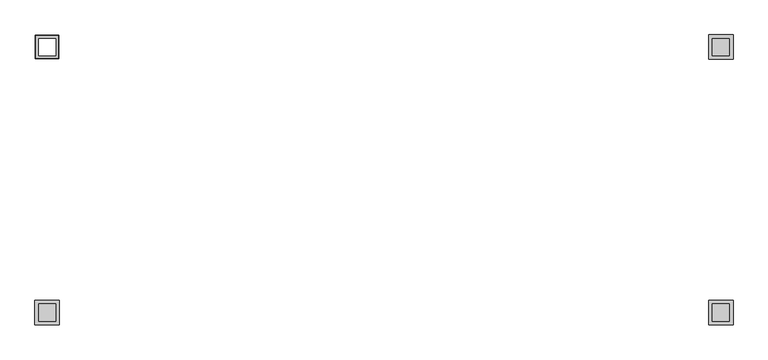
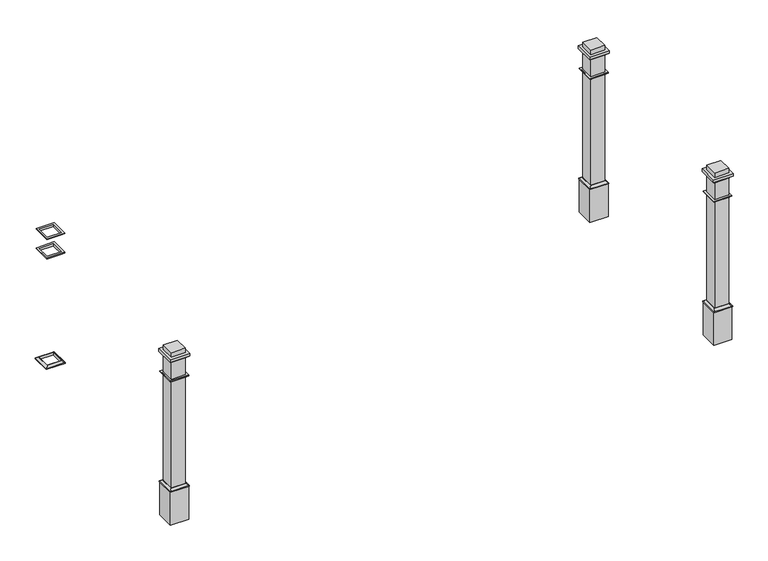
"""IFC4 building model written with IfcOpenShell, lengths in millimetres: railing geometry, Deco Type."""

from ifc_helpers import new_model, si_unit, frame, origin, place, context, project, spatial, polyline, ellipse_curve, outline, extrude, faceted_brep, source, transform, mapped, element, save
from ifc_brep_helpers import plane_surface, revolved_surface, advanced_brep


def railing_413a9257(model_context):
    return source(origin(), model_context, "Body", "SolidModel", [
        advanced_brep(
        [(5407.8905852, 13388.0931951, 3149.6), (5407.8905852, 13388.0931951, 3171.825), (5287.2405852, 13388.0931951, 3171.825), (5287.2405852, 13388.0931951, 3149.6), (5430.1155852, 13410.3181951, 3155.95), (5430.1155852, 13410.3181951, 3149.6), (5265.0155852, 13410.3181951, 3149.6), (5265.0155852, 13410.3181951, 3155.95), (5414.2405852, 13394.4431951, 3171.825), (5280.8905852, 13394.4431951, 3171.825), (5287.2405852, 13267.4431951, 3171.825), (5287.2405852, 13267.4431951, 3149.6), (5265.0155852, 13245.2181951, 3149.6), (5265.0155852, 13245.2181951, 3155.95), (5280.8905852, 13261.0931951, 3171.825), (5407.8905852, 13267.4431951, 3171.825), (5407.8905852, 13267.4431951, 3149.6), (5430.1155852, 13245.2181951, 3149.6), (5430.1155852, 13245.2181951, 3155.95), (5414.2405852, 13261.0931951, 3171.825)],
        [
            (0, 1),
            (1, 2),
            (2, 3),
            (3, 0),
            (4, 5),
            (5, 6),
            (6, 7),
            (7, 4),
            (8, 4, ellipse_curve(frame((5430.1155852, 13410.3181951, 3171.825), z_axis=(0.7071067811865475, -0.7071067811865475, 0.0), x_axis=(-0.7071067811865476, -0.7071067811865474, 0.0)), 22.4506403, 15.875)),
            (7, 9, ellipse_curve(frame((5265.0155852, 13410.3181951, 3171.825), z_axis=(-0.7071067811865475, -0.7071067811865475, 0.0), x_axis=(-0.7071067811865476, 0.7071067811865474, 0.0)), 22.4506403, 15.875)),
            (9, 8),
            (2, 10),
            (10, 11),
            (11, 3),
            (6, 12),
            (12, 13),
            (13, 7),
            (13, 14, ellipse_curve(frame((5265.0155852, 13245.2181951, 3171.825), z_axis=(0.7071067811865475, -0.7071067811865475, 0.0), x_axis=(-0.7071067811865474, -0.7071067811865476, 0.0)), 22.4506403, 15.875)),
            (14, 9),
            (10, 15),
            (15, 16),
            (16, 11),
            (12, 17),
            (17, 18),
            (18, 13),
            (18, 19, ellipse_curve(frame((5430.1155852, 13245.2181951, 3171.825), z_axis=(0.7071067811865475, 0.7071067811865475, 0.0), x_axis=(0.7071067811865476, -0.7071067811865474, 0.0)), 22.4506403, 15.875)),
            (19, 14),
            (15, 1),
            (0, 16),
            (5, 17),
            (4, 18),
            (8, 19),
        ],
        [
            plane_surface(frame((5407.8905852, 13388.0931951, 3171.825), z_axis=(0.0, -1.0, 0.0), x_axis=(-1.0, 0.0, 0.0))),
            plane_surface(frame((5430.1155852, 13410.3181951, 3149.6), z_axis=(0.0, 1.0, 0.0), x_axis=(-1.0, 0.0, 0.0))),
            revolved_surface(polyline([(5249.14058520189, 13394.4431951, 3171.825), (5445.99058519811, 13394.4431951, 3171.825)]), (5407.8905852, 13410.3181951, 3171.825), (-1.0, 0.0, 0.0)),
            plane_surface(frame((5287.2405852, 13388.0931951, 3171.825), z_axis=(1.0, 0.0, 0.0), x_axis=(0.0, -1.0, 0.0))),
            plane_surface(frame((5265.0155852, 13410.3181951, 3149.6), z_axis=(-1.0, 0.0, 0.0), x_axis=(0.0, -1.0, 0.0))),
            revolved_surface(polyline([(5280.8905852, 13229.34319510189, 3171.825), (5280.8905852, 13426.19319509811, 3171.825)]), (5265.0155852, 13388.0931951, 3171.825), (0.0, -1.0, 0.0)),
            plane_surface(frame((5287.2405852, 13267.4431951, 3171.825), z_axis=(0.0, 1.0, 0.0), x_axis=(1.0, 0.0, 0.0))),
            plane_surface(frame((5265.0155852, 13245.2181951, 3149.6), z_axis=(0.0, -1.0, 0.0), x_axis=(1.0, 0.0, 0.0))),
            revolved_surface(polyline([(5445.99058519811, 13261.0931951, 3171.825), (5249.14058520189, 13261.0931951, 3171.825)]), (5287.2405852, 13245.2181951, 3171.825), (1.0, 0.0, 0.0)),
            plane_surface(frame((5407.8905852, 13267.4431951, 3171.825), z_axis=(-1.0, 0.0, 0.0), x_axis=(0.0, 1.0, 0.0))),
            plane_surface(frame((5407.8905852, 13267.4431951, 3149.6), z_axis=(0.0, 0.0, -1.0), x_axis=(0.0, 1.0, 0.0))),
            plane_surface(frame((5430.1155852, 13245.2181951, 3149.6), z_axis=(1.0, 0.0, 0.0), x_axis=(0.0, 1.0, 0.0))),
            revolved_surface(polyline([(5414.2405852, 13426.19319509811, 3171.825), (5414.2405852, 13229.34319510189, 3171.825)]), (5430.1155852, 13267.4431951, 3171.825), (0.0, 1.0, 0.0)),
            plane_surface(frame((5414.2405852, 13261.0931951, 3171.825), z_axis=(0.0, 0.0, 1.0), x_axis=(0.0, 1.0, 0.0))),
        ],
        [
            (0, [[1, 2, 3, 4]]),
            (1, [[5, 6, 7, 8]]),
            (2, [[9, -8, 10, 11]]),
            (3, [[-3, 12, 13, 14]]),
            (4, [[-7, 15, 16, 17]]),
            (5, [[-10, -17, 18, 19]]),
            (6, [[-13, 20, 21, 22]]),
            (7, [[-16, 23, 24, 25]]),
            (8, [[-18, -25, 26, 27]]),
            (9, [[-21, 28, -1, 29]]),
            (10, [[30, -23, -15, -6], [-14, -22, -29, -4]]),
            (11, [[-24, -30, -5, 31]]),
            (12, [[-26, -31, -9, 32]]),
            (13, [[-19, -27, -32, -11], [-28, -20, -12, -2]]),
        ],
    ),
        advanced_brep(
        [(5407.8905852, 13388.0931951, 4156.075), (5407.8905852, 13388.0931951, 4175.125), (5287.2405852, 13388.0931951, 4175.125), (5287.2405852, 13388.0931951, 4156.075), (5426.9405852, 13407.1431951, 4168.775), (5414.2405852, 13394.4431951, 4156.075), (5280.8905852, 13394.4431951, 4156.075), (5268.1905852, 13407.1431951, 4168.775), (5426.9405852, 13407.1431951, 4175.125), (5268.1905852, 13407.1431951, 4175.125), (5287.2405852, 13267.4431951, 4175.125), (5287.2405852, 13267.4431951, 4156.075), (5280.8905852, 13261.0931951, 4156.075), (5268.1905852, 13248.3931951, 4168.775), (5268.1905852, 13248.3931951, 4175.125), (5407.8905852, 13267.4431951, 4175.125), (5407.8905852, 13267.4431951, 4156.075), (5414.2405852, 13261.0931951, 4156.075), (5426.9405852, 13248.3931951, 4168.775), (5426.9405852, 13248.3931951, 4175.125)],
        [
            (0, 1),
            (1, 2),
            (2, 3),
            (3, 0),
            (4, 5, ellipse_curve(frame((5426.9405852, 13407.1431951, 4156.075), z_axis=(0.7071067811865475, -0.7071067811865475, 0.0), x_axis=(-0.7071067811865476, -0.7071067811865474, 0.0)), 17.9605122, 12.7)),
            (5, 6),
            (6, 7, ellipse_curve(frame((5268.1905852, 13407.1431951, 4156.075), z_axis=(-0.7071067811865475, -0.7071067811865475, 0.0), x_axis=(-0.7071067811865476, 0.7071067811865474, 0.0)), 17.9605122, 12.7)),
            (7, 4),
            (8, 4),
            (7, 9),
            (9, 8),
            (2, 10),
            (10, 11),
            (11, 3),
            (6, 12),
            (12, 13, ellipse_curve(frame((5268.1905852, 13248.3931951, 4156.075), z_axis=(0.7071067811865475, -0.7071067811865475, 0.0), x_axis=(-0.7071067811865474, -0.7071067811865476, 0.0)), 17.9605122, 12.7)),
            (13, 7),
            (13, 14),
            (14, 9),
            (10, 15),
            (15, 16),
            (16, 11),
            (12, 17),
            (17, 18, ellipse_curve(frame((5426.9405852, 13248.3931951, 4156.075), z_axis=(0.7071067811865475, 0.7071067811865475, 0.0), x_axis=(0.7071067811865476, -0.7071067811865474, 0.0)), 17.9605122, 12.7)),
            (18, 13),
            (18, 19),
            (19, 14),
            (19, 8),
            (1, 15),
            (0, 16),
            (5, 17),
            (4, 18),
        ],
        [
            plane_surface(frame((5407.8905852, 13388.0931951, 4175.125), z_axis=(0.0, -1.0, 0.0), x_axis=(-1.0, 0.0, 0.0))),
            revolved_surface(polyline([(5255.490585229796, 13394.443195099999, 4156.075), (5439.640585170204, 13394.443195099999, 4156.075)]), (5407.8905852, 13407.1431951, 4156.075), (-1.0, 0.0, 0.0)),
            plane_surface(frame((5426.9405852, 13407.1431951, 4168.775), z_axis=(0.0, 1.0, 0.0), x_axis=(-1.0, 0.0, 0.0))),
            plane_surface(frame((5287.2405852, 13388.0931951, 4175.125), z_axis=(1.0, 0.0, 0.0), x_axis=(0.0, -1.0, 0.0))),
            revolved_surface(polyline([(5280.8905852, 13235.693195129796, 4156.075), (5280.8905852, 13419.843195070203, 4156.075)]), (5268.1905852, 13388.0931951, 4156.075), (0.0, -1.0, 0.0)),
            plane_surface(frame((5268.1905852, 13407.1431951, 4168.775), z_axis=(-1.0, 0.0, 0.0), x_axis=(0.0, -1.0, 0.0))),
            plane_surface(frame((5287.2405852, 13267.4431951, 4175.125), z_axis=(0.0, 1.0, 0.0), x_axis=(1.0, 0.0, 0.0))),
            revolved_surface(polyline([(5439.640585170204, 13261.0931951, 4156.075), (5255.490585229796, 13261.0931951, 4156.075)]), (5287.2405852, 13248.3931951, 4156.075), (1.0, 0.0, 0.0)),
            plane_surface(frame((5268.1905852, 13248.3931951, 4168.775), z_axis=(0.0, -1.0, 0.0), x_axis=(1.0, 0.0, 0.0))),
            plane_surface(frame((5426.9405852, 13248.3931951, 4175.125), z_axis=(0.0, 0.0, 1.0), x_axis=(0.0, 1.0, 0.0))),
            plane_surface(frame((5407.8905852, 13267.4431951, 4175.125), z_axis=(-1.0, 0.0, 0.0), x_axis=(0.0, 1.0, 0.0))),
            plane_surface(frame((5407.8905852, 13267.4431951, 4156.075), z_axis=(0.0, 0.0, -1.0), x_axis=(0.0, 1.0, 0.0))),
            revolved_surface(polyline([(5414.2405852, 13419.843195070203, 4156.075), (5414.2405852, 13235.693195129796, 4156.075)]), (5426.9405852, 13267.4431951, 4156.075), (0.0, 1.0, 0.0)),
            plane_surface(frame((5426.9405852, 13248.3931951, 4168.775), z_axis=(1.0, 0.0, 0.0), x_axis=(0.0, 1.0, 0.0))),
        ],
        [
            (0, [[1, 2, 3, 4]]),
            (1, [[5, 6, 7, 8]]),
            (2, [[9, -8, 10, 11]]),
            (3, [[-3, 12, 13, 14]]),
            (4, [[-7, 15, 16, 17]]),
            (5, [[-10, -17, 18, 19]]),
            (6, [[-13, 20, 21, 22]]),
            (7, [[-16, 23, 24, 25]]),
            (8, [[-18, -25, 26, 27]]),
            (9, [[-19, -27, 28, -11], [29, -20, -12, -2]]),
            (10, [[-21, -29, -1, 30]]),
            (11, [[31, -23, -15, -6], [-14, -22, -30, -4]]),
            (12, [[-24, -31, -5, 32]]),
            (13, [[-26, -32, -9, -28]]),
        ],
    ),
        faceted_brep([(5407.8905852, 13388.0931951, 4333.875), (5407.8905852, 13388.0931951, 4352.925), (5287.2405852, 13388.0931951, 4352.925), (5287.2405852, 13388.0931951, 4333.875), (5414.2405852, 13394.4431951, 4346.575), (5414.2405852, 13394.4431951, 4333.875), (5280.8905852, 13394.4431951, 4333.875), (5280.8905852, 13394.4431951, 4346.575), (5426.9405852, 13407.1431951, 4352.925), (5426.9405852, 13407.1431951, 4346.575), (5268.1905852, 13407.1431951, 4346.575), (5268.1905852, 13407.1431951, 4352.925), (5287.2405852, 13267.4431951, 4352.925), (5287.2405852, 13267.4431951, 4333.875), (5280.8905852, 13261.0931951, 4333.875), (5280.8905852, 13261.0931951, 4346.575), (5268.1905852, 13248.3931951, 4346.575), (5268.1905852, 13248.3931951, 4352.925), (5407.8905852, 13267.4431951, 4352.925), (5407.8905852, 13267.4431951, 4333.875), (5414.2405852, 13261.0931951, 4333.875), (5414.2405852, 13261.0931951, 4346.575), (5426.9405852, 13248.3931951, 4346.575), (5426.9405852, 13248.3931951, 4352.925)], [[[0, 1, 2, 3]], [[4, 5, 6, 7]], [[8, 9, 10, 11]], [[3, 2, 12, 13]], [[7, 6, 14, 15]], [[11, 10, 16, 17]], [[13, 12, 18, 19]], [[15, 14, 20, 21]], [[17, 16, 22, 23]], [[19, 18, 1, 0]], [[5, 20, 14, 6], [3, 13, 19, 0]], [[21, 20, 5, 4]], [[9, 22, 16, 10], [7, 15, 21, 4]], [[23, 22, 9, 8]], [[11, 17, 23, 8], [1, 18, 12, 2]]]),
        extrude(outline(polyline([(10010.8468352, 13248.3931951), (10010.8468352, 13407.1431951), (10169.5968352, 13407.1431951), (10169.5968352, 13248.3931951), (10010.8468352, 13248.3931951)])), frame((0.0, 0.0, 2844.8), z_axis=(0.0, 0.0, 1.0), x_axis=(1.0, 0.0, 0.0)), (0.0, 0.0, 1.0), 304.8),
        extrude(outline(polyline([(10029.8968352, 13267.4431951), (10029.8968352, 13388.0931951), (10150.5468352, 13388.0931951), (10150.5468352, 13267.4431951), (10029.8968352, 13267.4431951)])), frame((0.0, 0.0, 3149.6), z_axis=(0.0, 0.0, 1.0), x_axis=(1.0, 0.0, 0.0)), (0.0, 0.0, 1.0), 1270.0),
        extrude(outline(polyline([(10175.9468352, 13242.0431951), (10004.4968352, 13242.0431951), (10004.4968352, 13413.4931951), (10175.9468352, 13413.4931951), (10175.9468352, 13242.0431951)]), holes=[polyline([(10150.5468352, 13388.0931951), (10029.8968352, 13388.0931951), (10029.8968352, 13267.4431951), (10150.5468352, 13267.4431951), (10150.5468352, 13388.0931951)])]), frame((0.0, 0.0, 4352.925), z_axis=(0.0, 0.0, 1.0), x_axis=(1.0, 0.0, 0.0)), (0.0, 0.0, 1.0), 25.4),
        advanced_brep(
        [(10150.5468352, 13267.4431951, 3149.6), (10150.5468352, 13267.4431951, 3171.825), (10150.5468352, 13388.0931951, 3171.825), (10150.5468352, 13388.0931951, 3149.6), (10172.7718352, 13245.2181951, 3155.95), (10172.7718352, 13245.2181951, 3149.6), (10172.7718352, 13410.3181951, 3149.6), (10172.7718352, 13410.3181951, 3155.95), (10156.8968352, 13261.0931951, 3171.825), (10156.8968352, 13394.4431951, 3171.825), (10029.8968352, 13388.0931951, 3171.825), (10029.8968352, 13388.0931951, 3149.6), (10007.6718352, 13410.3181951, 3149.6), (10007.6718352, 13410.3181951, 3155.95), (10023.5468352, 13394.4431951, 3171.825), (10029.8968352, 13267.4431951, 3171.825), (10029.8968352, 13267.4431951, 3149.6), (10007.6718352, 13245.2181951, 3149.6), (10007.6718352, 13245.2181951, 3155.95), (10023.5468352, 13261.0931951, 3171.825)],
        [
            (0, 1),
            (1, 2),
            (2, 3),
            (3, 0),
            (4, 5),
            (5, 6),
            (6, 7),
            (7, 4),
            (8, 4, ellipse_curve(frame((10172.7718352, 13245.2181951, 3171.825), z_axis=(-0.7071067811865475, -0.7071067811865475, 0.0), x_axis=(-0.7071067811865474, 0.7071067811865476, 0.0)), 22.4506403, 15.875)),
            (7, 9, ellipse_curve(frame((10172.7718352, 13410.3181951, 3171.825), z_axis=(-0.7071067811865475, 0.7071067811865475, 0.0), x_axis=(0.7071067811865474, 0.7071067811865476, 0.0)), 22.4506403, 15.875)),
            (9, 8),
            (2, 10),
            (10, 11),
            (11, 3),
            (6, 12),
            (12, 13),
            (13, 7),
            (13, 14, ellipse_curve(frame((10007.6718352, 13410.3181951, 3171.825), z_axis=(-0.7071067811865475, -0.7071067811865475, 0.0), x_axis=(-0.7071067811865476, 0.7071067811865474, 0.0)), 22.4506403, 15.875)),
            (14, 9),
            (10, 15),
            (15, 16),
            (16, 11),
            (12, 17),
            (17, 18),
            (18, 13),
            (18, 19, ellipse_curve(frame((10007.6718352, 13245.2181951, 3171.825), z_axis=(0.7071067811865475, -0.7071067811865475, 0.0), x_axis=(-0.7071067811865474, -0.7071067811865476, 0.0)), 22.4506403, 15.875)),
            (19, 14),
            (15, 1),
            (0, 16),
            (5, 17),
            (4, 18),
            (8, 19),
        ],
        [
            plane_surface(frame((10150.5468352, 13267.4431951, 3171.825), z_axis=(-1.0, 0.0, 0.0), x_axis=(0.0, 1.0, 0.0))),
            plane_surface(frame((10172.7718352, 13245.2181951, 3149.6), z_axis=(1.0, 0.0, 0.0), x_axis=(0.0, 1.0, 0.0))),
            revolved_surface(polyline([(10156.8968352, 13426.19319509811, 3171.825), (10156.8968352, 13229.34319510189, 3171.825)]), (10172.7718352, 13267.4431951, 3171.825), (0.0, 1.0, 0.0)),
            plane_surface(frame((10150.5468352, 13388.0931951, 3171.825), z_axis=(0.0, -1.0, 0.0), x_axis=(-1.0, 0.0, 0.0))),
            plane_surface(frame((10172.7718352, 13410.3181951, 3149.6), z_axis=(0.0, 1.0, 0.0), x_axis=(-1.0, 0.0, 0.0))),
            revolved_surface(polyline([(9991.79683520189, 13394.4431951, 3171.825), (10188.64683519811, 13394.4431951, 3171.825)]), (10150.5468352, 13410.3181951, 3171.825), (-1.0, 0.0, 0.0)),
            plane_surface(frame((10029.8968352, 13388.0931951, 3171.825), z_axis=(1.0, 0.0, 0.0), x_axis=(0.0, -1.0, 0.0))),
            plane_surface(frame((10007.6718352, 13410.3181951, 3149.6), z_axis=(-1.0, 0.0, 0.0), x_axis=(0.0, -1.0, 0.0))),
            revolved_surface(polyline([(10023.5468352, 13229.34319510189, 3171.825), (10023.5468352, 13426.19319509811, 3171.825)]), (10007.6718352, 13388.0931951, 3171.825), (0.0, -1.0, 0.0)),
            plane_surface(frame((10029.8968352, 13267.4431951, 3171.825), z_axis=(0.0, 1.0, 0.0), x_axis=(1.0, 0.0, 0.0))),
            plane_surface(frame((10029.8968352, 13267.4431951, 3149.6), z_axis=(0.0, 0.0, -1.0), x_axis=(1.0, 0.0, 0.0))),
            plane_surface(frame((10007.6718352, 13245.2181951, 3149.6), z_axis=(0.0, -1.0, 0.0), x_axis=(1.0, 0.0, 0.0))),
            revolved_surface(polyline([(10188.64683519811, 13261.0931951, 3171.825), (9991.79683520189, 13261.0931951, 3171.825)]), (10029.8968352, 13245.2181951, 3171.825), (1.0, 0.0, 0.0)),
            plane_surface(frame((10023.5468352, 13261.0931951, 3171.825), z_axis=(0.0, 0.0, 1.0), x_axis=(1.0, 0.0, 0.0))),
        ],
        [
            (0, [[1, 2, 3, 4]]),
            (1, [[5, 6, 7, 8]]),
            (2, [[9, -8, 10, 11]]),
            (3, [[-3, 12, 13, 14]]),
            (4, [[-7, 15, 16, 17]]),
            (5, [[-10, -17, 18, 19]]),
            (6, [[-13, 20, 21, 22]]),
            (7, [[-16, 23, 24, 25]]),
            (8, [[-18, -25, 26, 27]]),
            (9, [[-21, 28, -1, 29]]),
            (10, [[30, -23, -15, -6], [-14, -22, -29, -4]]),
            (11, [[-24, -30, -5, 31]]),
            (12, [[-26, -31, -9, 32]]),
            (13, [[-19, -27, -32, -11], [-28, -20, -12, -2]]),
        ],
    ),
        advanced_brep(
        [(10150.5468352, 13267.4431951, 4156.075), (10150.5468352, 13267.4431951, 4175.125), (10150.5468352, 13388.0931951, 4175.125), (10150.5468352, 13388.0931951, 4156.075), (10169.5968352, 13248.3931951, 4168.775), (10156.8968352, 13261.0931951, 4156.075), (10156.8968352, 13394.4431951, 4156.075), (10169.5968352, 13407.1431951, 4168.775), (10169.5968352, 13248.3931951, 4175.125), (10169.5968352, 13407.1431951, 4175.125), (10029.8968352, 13388.0931951, 4175.125), (10029.8968352, 13388.0931951, 4156.075), (10023.5468352, 13394.4431951, 4156.075), (10010.8468352, 13407.1431951, 4168.775), (10010.8468352, 13407.1431951, 4175.125), (10029.8968352, 13267.4431951, 4175.125), (10029.8968352, 13267.4431951, 4156.075), (10023.5468352, 13261.0931951, 4156.075), (10010.8468352, 13248.3931951, 4168.775), (10010.8468352, 13248.3931951, 4175.125)],
        [
            (0, 1),
            (1, 2),
            (2, 3),
            (3, 0),
            (4, 5, ellipse_curve(frame((10169.5968352, 13248.3931951, 4156.075), z_axis=(-0.7071067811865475, -0.7071067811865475, 0.0), x_axis=(-0.7071067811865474, 0.7071067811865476, 0.0)), 17.9605122, 12.7)),
            (5, 6),
            (6, 7, ellipse_curve(frame((10169.5968352, 13407.1431951, 4156.075), z_axis=(-0.7071067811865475, 0.7071067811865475, 0.0), x_axis=(0.7071067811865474, 0.7071067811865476, 0.0)), 17.9605122, 12.7)),
            (7, 4),
            (8, 4),
            (7, 9),
            (9, 8),
            (2, 10),
            (10, 11),
            (11, 3),
            (6, 12),
            (12, 13, ellipse_curve(frame((10010.8468352, 13407.1431951, 4156.075), z_axis=(-0.7071067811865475, -0.7071067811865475, 0.0), x_axis=(-0.7071067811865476, 0.7071067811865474, 0.0)), 17.9605122, 12.7)),
            (13, 7),
            (13, 14),
            (14, 9),
            (10, 15),
            (15, 16),
            (16, 11),
            (12, 17),
            (17, 18, ellipse_curve(frame((10010.8468352, 13248.3931951, 4156.075), z_axis=(0.7071067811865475, -0.7071067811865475, 0.0), x_axis=(-0.7071067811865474, -0.7071067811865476, 0.0)), 17.9605122, 12.7)),
            (18, 13),
            (18, 19),
            (19, 14),
            (19, 8),
            (1, 15),
            (0, 16),
            (5, 17),
            (4, 18),
        ],
        [
            plane_surface(frame((10150.5468352, 13267.4431951, 4175.125), z_axis=(-1.0, 0.0, 0.0), x_axis=(0.0, 1.0, 0.0))),
            revolved_surface(polyline([(10156.8968352, 13419.843195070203, 4156.075), (10156.8968352, 13235.693195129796, 4156.075)]), (10169.5968352, 13267.4431951, 4156.075), (0.0, 1.0, 0.0)),
            plane_surface(frame((10169.5968352, 13248.3931951, 4168.775), z_axis=(1.0, 0.0, 0.0), x_axis=(0.0, 1.0, 0.0))),
            plane_surface(frame((10150.5468352, 13388.0931951, 4175.125), z_axis=(0.0, -1.0, 0.0), x_axis=(-1.0, 0.0, 0.0))),
            revolved_surface(polyline([(9998.146835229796, 13394.443195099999, 4156.075), (10182.296835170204, 13394.443195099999, 4156.075)]), (10150.5468352, 13407.1431951, 4156.075), (-1.0, 0.0, 0.0)),
            plane_surface(frame((10169.5968352, 13407.1431951, 4168.775), z_axis=(0.0, 1.0, 0.0), x_axis=(-1.0, 0.0, 0.0))),
            plane_surface(frame((10029.8968352, 13388.0931951, 4175.125), z_axis=(1.0, 0.0, 0.0), x_axis=(0.0, -1.0, 0.0))),
            revolved_surface(polyline([(10023.5468352, 13235.693195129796, 4156.075), (10023.5468352, 13419.843195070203, 4156.075)]), (10010.8468352, 13388.0931951, 4156.075), (0.0, -1.0, 0.0)),
            plane_surface(frame((10010.8468352, 13407.1431951, 4168.775), z_axis=(-1.0, 0.0, 0.0), x_axis=(0.0, -1.0, 0.0))),
            plane_surface(frame((10010.8468352, 13248.3931951, 4175.125), z_axis=(0.0, 0.0, 1.0), x_axis=(1.0, 0.0, 0.0))),
            plane_surface(frame((10029.8968352, 13267.4431951, 4175.125), z_axis=(0.0, 1.0, 0.0), x_axis=(1.0, 0.0, 0.0))),
            plane_surface(frame((10029.8968352, 13267.4431951, 4156.075), z_axis=(0.0, 0.0, -1.0), x_axis=(1.0, 0.0, 0.0))),
            revolved_surface(polyline([(10182.296835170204, 13261.0931951, 4156.075), (9998.146835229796, 13261.0931951, 4156.075)]), (10029.8968352, 13248.3931951, 4156.075), (1.0, 0.0, 0.0)),
            plane_surface(frame((10010.8468352, 13248.3931951, 4168.775), z_axis=(0.0, -1.0, 0.0), x_axis=(1.0, 0.0, 0.0))),
        ],
        [
            (0, [[1, 2, 3, 4]]),
            (1, [[5, 6, 7, 8]]),
            (2, [[9, -8, 10, 11]]),
            (3, [[-3, 12, 13, 14]]),
            (4, [[-7, 15, 16, 17]]),
            (5, [[-10, -17, 18, 19]]),
            (6, [[-13, 20, 21, 22]]),
            (7, [[-16, 23, 24, 25]]),
            (8, [[-18, -25, 26, 27]]),
            (9, [[-19, -27, 28, -11], [29, -20, -12, -2]]),
            (10, [[-21, -29, -1, 30]]),
            (11, [[31, -23, -15, -6], [-14, -22, -30, -4]]),
            (12, [[-24, -31, -5, 32]]),
            (13, [[-26, -32, -9, -28]]),
        ],
    ),
        faceted_brep([(10150.5468352, 13267.4431951, 4333.875), (10150.5468352, 13267.4431951, 4352.925), (10150.5468352, 13388.0931951, 4352.925), (10150.5468352, 13388.0931951, 4333.875), (10156.8968352, 13261.0931951, 4346.575), (10156.8968352, 13261.0931951, 4333.875), (10156.8968352, 13394.4431951, 4333.875), (10156.8968352, 13394.4431951, 4346.575), (10169.5968352, 13248.3931951, 4352.925), (10169.5968352, 13248.3931951, 4346.575), (10169.5968352, 13407.1431951, 4346.575), (10169.5968352, 13407.1431951, 4352.925), (10029.8968352, 13388.0931951, 4352.925), (10029.8968352, 13388.0931951, 4333.875), (10023.5468352, 13394.4431951, 4333.875), (10023.5468352, 13394.4431951, 4346.575), (10010.8468352, 13407.1431951, 4346.575), (10010.8468352, 13407.1431951, 4352.925), (10029.8968352, 13267.4431951, 4352.925), (10029.8968352, 13267.4431951, 4333.875), (10023.5468352, 13261.0931951, 4333.875), (10023.5468352, 13261.0931951, 4346.575), (10010.8468352, 13248.3931951, 4346.575), (10010.8468352, 13248.3931951, 4352.925)], [[[0, 1, 2, 3]], [[4, 5, 6, 7]], [[8, 9, 10, 11]], [[3, 2, 12, 13]], [[7, 6, 14, 15]], [[11, 10, 16, 17]], [[13, 12, 18, 19]], [[15, 14, 20, 21]], [[17, 16, 22, 23]], [[19, 18, 1, 0]], [[5, 20, 14, 6], [3, 13, 19, 0]], [[21, 20, 5, 4]], [[9, 22, 16, 10], [7, 15, 21, 4]], [[23, 22, 9, 8]], [[11, 17, 23, 8], [1, 18, 12, 2]]]),
        extrude(outline(polyline([(5426.9405852, 11535.0838201), (5426.9405852, 11376.3338201), (5268.1905852, 11376.3338201), (5268.1905852, 11535.0838201), (5426.9405852, 11535.0838201)])), frame((0.0, 0.0, 2844.8), z_axis=(0.0, 0.0, 1.0), x_axis=(1.0, 0.0, 0.0)), (0.0, 0.0, 1.0), 304.8),
        extrude(outline(polyline([(5407.8905852, 11516.0338201), (5407.8905852, 11395.3838201), (5287.2405852, 11395.3838201), (5287.2405852, 11516.0338201), (5407.8905852, 11516.0338201)])), frame((0.0, 0.0, 3149.6), z_axis=(0.0, 0.0, 1.0), x_axis=(1.0, 0.0, 0.0)), (0.0, 0.0, 1.0), 1270.0),
        extrude(outline(polyline([(5261.8405852, 11541.4338201), (5433.2905852, 11541.4338201), (5433.2905852, 11369.9838201), (5261.8405852, 11369.9838201), (5261.8405852, 11541.4338201)]), holes=[polyline([(5287.2405852, 11395.3838201), (5407.8905852, 11395.3838201), (5407.8905852, 11516.0338201), (5287.2405852, 11516.0338201), (5287.2405852, 11395.3838201)])]), frame((0.0, 0.0, 4352.925), z_axis=(0.0, 0.0, 1.0), x_axis=(1.0, 0.0, 0.0)), (0.0, 0.0, 1.0), 25.4),
        advanced_brep(
        [(5287.2405852, 11516.0338201, 3149.6), (5287.2405852, 11516.0338201, 3171.825), (5287.2405852, 11395.3838201, 3171.825), (5287.2405852, 11395.3838201, 3149.6), (5265.0155852, 11538.2588201, 3155.95), (5265.0155852, 11538.2588201, 3149.6), (5265.0155852, 11373.1588201, 3149.6), (5265.0155852, 11373.1588201, 3155.95), (5280.8905852, 11522.3838201, 3171.825), (5280.8905852, 11389.0338201, 3171.825), (5407.8905852, 11395.3838201, 3171.825), (5407.8905852, 11395.3838201, 3149.6), (5430.1155852, 11373.1588201, 3149.6), (5430.1155852, 11373.1588201, 3155.95), (5414.2405852, 11389.0338201, 3171.825), (5407.8905852, 11516.0338201, 3171.825), (5407.8905852, 11516.0338201, 3149.6), (5430.1155852, 11538.2588201, 3149.6), (5430.1155852, 11538.2588201, 3155.95), (5414.2405852, 11522.3838201, 3171.825)],
        [
            (0, 1),
            (1, 2),
            (2, 3),
            (3, 0),
            (4, 5),
            (5, 6),
            (6, 7),
            (7, 4),
            (8, 4, ellipse_curve(frame((5265.0155852, 11538.2588201, 3171.825), z_axis=(0.7071067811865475, 0.7071067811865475, 0.0), x_axis=(0.7071067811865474, -0.7071067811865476, 0.0)), 22.4506403, 15.875)),
            (7, 9, ellipse_curve(frame((5265.0155852, 11373.1588201, 3171.825), z_axis=(0.7071067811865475, -0.7071067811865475, 0.0), x_axis=(-0.7071067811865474, -0.7071067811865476, 0.0)), 22.4506403, 15.875)),
            (9, 8),
            (2, 10),
            (10, 11),
            (11, 3),
            (6, 12),
            (12, 13),
            (13, 7),
            (13, 14, ellipse_curve(frame((5430.1155852, 11373.1588201, 3171.825), z_axis=(0.7071067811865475, 0.7071067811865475, 0.0), x_axis=(0.7071067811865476, -0.7071067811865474, 0.0)), 22.4506403, 15.875)),
            (14, 9),
            (10, 15),
            (15, 16),
            (16, 11),
            (12, 17),
            (17, 18),
            (18, 13),
            (18, 19, ellipse_curve(frame((5430.1155852, 11538.2588201, 3171.825), z_axis=(-0.7071067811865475, 0.7071067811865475, 0.0), x_axis=(0.7071067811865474, 0.7071067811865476, 0.0)), 22.4506403, 15.875)),
            (19, 14),
            (15, 1),
            (0, 16),
            (5, 17),
            (4, 18),
            (8, 19),
        ],
        [
            plane_surface(frame((5287.2405852, 11516.0338201, 3171.825), z_axis=(1.0, 0.0, 0.0), x_axis=(0.0, -1.0, 0.0))),
            plane_surface(frame((5265.0155852, 11538.2588201, 3149.6), z_axis=(-1.0, 0.0, 0.0), x_axis=(0.0, -1.0, 0.0))),
            revolved_surface(polyline([(5280.8905852, 11357.28382010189, 3171.825), (5280.8905852, 11554.13382009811, 3171.825)]), (5265.0155852, 11516.0338201, 3171.825), (0.0, -1.0, 0.0)),
            plane_surface(frame((5287.2405852, 11395.3838201, 3171.825), z_axis=(0.0, 1.0, 0.0), x_axis=(1.0, 0.0, 0.0))),
            plane_surface(frame((5265.0155852, 11373.1588201, 3149.6), z_axis=(0.0, -1.0, 0.0), x_axis=(1.0, 0.0, 0.0))),
            revolved_surface(polyline([(5445.99058519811, 11389.0338201, 3171.825), (5249.14058520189, 11389.0338201, 3171.825)]), (5287.2405852, 11373.1588201, 3171.825), (1.0, 0.0, 0.0)),
            plane_surface(frame((5407.8905852, 11395.3838201, 3171.825), z_axis=(-1.0, 0.0, 0.0), x_axis=(0.0, 1.0, 0.0))),
            plane_surface(frame((5430.1155852, 11373.1588201, 3149.6), z_axis=(1.0, 0.0, 0.0), x_axis=(0.0, 1.0, 0.0))),
            revolved_surface(polyline([(5414.2405852, 11554.13382009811, 3171.825), (5414.2405852, 11357.28382010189, 3171.825)]), (5430.1155852, 11395.3838201, 3171.825), (0.0, 1.0, 0.0)),
            plane_surface(frame((5407.8905852, 11516.0338201, 3171.825), z_axis=(0.0, -1.0, 0.0), x_axis=(-1.0, 0.0, 0.0))),
            plane_surface(frame((5407.8905852, 11516.0338201, 3149.6), z_axis=(0.0, 0.0, -1.0), x_axis=(-1.0, 0.0, 0.0))),
            plane_surface(frame((5430.1155852, 11538.2588201, 3149.6), z_axis=(0.0, 1.0, 0.0), x_axis=(-1.0, 0.0, 0.0))),
            revolved_surface(polyline([(5249.14058520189, 11522.3838201, 3171.825), (5445.99058519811, 11522.3838201, 3171.825)]), (5407.8905852, 11538.2588201, 3171.825), (-1.0, 0.0, 0.0)),
            plane_surface(frame((5414.2405852, 11522.3838201, 3171.825), z_axis=(0.0, 0.0, 1.0), x_axis=(-1.0, 0.0, 0.0))),
        ],
        [
            (0, [[1, 2, 3, 4]]),
            (1, [[5, 6, 7, 8]]),
            (2, [[9, -8, 10, 11]]),
            (3, [[-3, 12, 13, 14]]),
            (4, [[-7, 15, 16, 17]]),
            (5, [[-10, -17, 18, 19]]),
            (6, [[-13, 20, 21, 22]]),
            (7, [[-16, 23, 24, 25]]),
            (8, [[-18, -25, 26, 27]]),
            (9, [[-21, 28, -1, 29]]),
            (10, [[30, -23, -15, -6], [-14, -22, -29, -4]]),
            (11, [[-24, -30, -5, 31]]),
            (12, [[-26, -31, -9, 32]]),
            (13, [[-19, -27, -32, -11], [-28, -20, -12, -2]]),
        ],
    ),
        advanced_brep(
        [(5287.2405852, 11516.0338201, 4156.075), (5287.2405852, 11516.0338201, 4175.125), (5287.2405852, 11395.3838201, 4175.125), (5287.2405852, 11395.3838201, 4156.075), (5268.1905852, 11535.0838201, 4168.775), (5280.8905852, 11522.3838201, 4156.075), (5280.8905852, 11389.0338201, 4156.075), (5268.1905852, 11376.3338201, 4168.775), (5268.1905852, 11535.0838201, 4175.125), (5268.1905852, 11376.3338201, 4175.125), (5407.8905852, 11395.3838201, 4175.125), (5407.8905852, 11395.3838201, 4156.075), (5414.2405852, 11389.0338201, 4156.075), (5426.9405852, 11376.3338201, 4168.775), (5426.9405852, 11376.3338201, 4175.125), (5407.8905852, 11516.0338201, 4175.125), (5407.8905852, 11516.0338201, 4156.075), (5414.2405852, 11522.3838201, 4156.075), (5426.9405852, 11535.0838201, 4168.775), (5426.9405852, 11535.0838201, 4175.125)],
        [
            (0, 1),
            (1, 2),
            (2, 3),
            (3, 0),
            (4, 5, ellipse_curve(frame((5268.1905852, 11535.0838201, 4156.075), z_axis=(0.7071067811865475, 0.7071067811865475, 0.0), x_axis=(0.7071067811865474, -0.7071067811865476, 0.0)), 17.9605122, 12.7)),
            (5, 6),
            (6, 7, ellipse_curve(frame((5268.1905852, 11376.3338201, 4156.075), z_axis=(0.7071067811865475, -0.7071067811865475, 0.0), x_axis=(-0.7071067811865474, -0.7071067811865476, 0.0)), 17.9605122, 12.7)),
            (7, 4),
            (8, 4),
            (7, 9),
            (9, 8),
            (2, 10),
            (10, 11),
            (11, 3),
            (6, 12),
            (12, 13, ellipse_curve(frame((5426.9405852, 11376.3338201, 4156.075), z_axis=(0.7071067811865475, 0.7071067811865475, 0.0), x_axis=(0.7071067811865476, -0.7071067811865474, 0.0)), 17.9605122, 12.7)),
            (13, 7),
            (13, 14),
            (14, 9),
            (10, 15),
            (15, 16),
            (16, 11),
            (12, 17),
            (17, 18, ellipse_curve(frame((5426.9405852, 11535.0838201, 4156.075), z_axis=(-0.7071067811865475, 0.7071067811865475, 0.0), x_axis=(0.7071067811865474, 0.7071067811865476, 0.0)), 17.9605122, 12.7)),
            (18, 13),
            (18, 19),
            (19, 14),
            (19, 8),
            (1, 15),
            (0, 16),
            (5, 17),
            (4, 18),
        ],
        [
            plane_surface(frame((5287.2405852, 11516.0338201, 4175.125), z_axis=(1.0, 0.0, 0.0), x_axis=(0.0, -1.0, 0.0))),
            revolved_surface(polyline([(5280.8905852, 11363.633820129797, 4156.075), (5280.8905852, 11547.783820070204, 4156.075)]), (5268.1905852, 11516.0338201, 4156.075), (0.0, -1.0, 0.0)),
            plane_surface(frame((5268.1905852, 11535.0838201, 4168.775), z_axis=(-1.0, 0.0, 0.0), x_axis=(0.0, -1.0, 0.0))),
            plane_surface(frame((5287.2405852, 11395.3838201, 4175.125), z_axis=(0.0, 1.0, 0.0), x_axis=(1.0, 0.0, 0.0))),
            revolved_surface(polyline([(5439.640585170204, 11389.033820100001, 4156.075), (5255.490585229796, 11389.033820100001, 4156.075)]), (5287.2405852, 11376.3338201, 4156.075), (1.0, 0.0, 0.0)),
            plane_surface(frame((5268.1905852, 11376.3338201, 4168.775), z_axis=(0.0, -1.0, 0.0), x_axis=(1.0, 0.0, 0.0))),
            plane_surface(frame((5407.8905852, 11395.3838201, 4175.125), z_axis=(-1.0, 0.0, 0.0), x_axis=(0.0, 1.0, 0.0))),
            revolved_surface(polyline([(5414.2405852, 11547.783820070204, 4156.075), (5414.2405852, 11363.633820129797, 4156.075)]), (5426.9405852, 11395.3838201, 4156.075), (0.0, 1.0, 0.0)),
            plane_surface(frame((5426.9405852, 11376.3338201, 4168.775), z_axis=(1.0, 0.0, 0.0), x_axis=(0.0, 1.0, 0.0))),
            plane_surface(frame((5426.9405852, 11535.0838201, 4175.125), z_axis=(0.0, 0.0, 1.0), x_axis=(-1.0, 0.0, 0.0))),
            plane_surface(frame((5407.8905852, 11516.0338201, 4175.125), z_axis=(0.0, -1.0, 0.0), x_axis=(-1.0, 0.0, 0.0))),
            plane_surface(frame((5407.8905852, 11516.0338201, 4156.075), z_axis=(0.0, 0.0, -1.0), x_axis=(-1.0, 0.0, 0.0))),
            revolved_surface(polyline([(5255.490585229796, 11522.3838201, 4156.075), (5439.640585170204, 11522.3838201, 4156.075)]), (5407.8905852, 11535.0838201, 4156.075), (-1.0, 0.0, 0.0)),
            plane_surface(frame((5426.9405852, 11535.0838201, 4168.775), z_axis=(0.0, 1.0, 0.0), x_axis=(-1.0, 0.0, 0.0))),
        ],
        [
            (0, [[1, 2, 3, 4]]),
            (1, [[5, 6, 7, 8]]),
            (2, [[9, -8, 10, 11]]),
            (3, [[-3, 12, 13, 14]]),
            (4, [[-7, 15, 16, 17]]),
            (5, [[-10, -17, 18, 19]]),
            (6, [[-13, 20, 21, 22]]),
            (7, [[-16, 23, 24, 25]]),
            (8, [[-18, -25, 26, 27]]),
            (9, [[-19, -27, 28, -11], [29, -20, -12, -2]]),
            (10, [[-21, -29, -1, 30]]),
            (11, [[31, -23, -15, -6], [-14, -22, -30, -4]]),
            (12, [[-24, -31, -5, 32]]),
            (13, [[-26, -32, -9, -28]]),
        ],
    ),
        faceted_brep([(5287.2405852, 11516.0338201, 4333.875), (5287.2405852, 11516.0338201, 4352.925), (5287.2405852, 11395.3838201, 4352.925), (5287.2405852, 11395.3838201, 4333.875), (5280.8905852, 11522.3838201, 4346.575), (5280.8905852, 11522.3838201, 4333.875), (5280.8905852, 11389.0338201, 4333.875), (5280.8905852, 11389.0338201, 4346.575), (5268.1905852, 11535.0838201, 4352.925), (5268.1905852, 11535.0838201, 4346.575), (5268.1905852, 11376.3338201, 4346.575), (5268.1905852, 11376.3338201, 4352.925), (5407.8905852, 11395.3838201, 4352.925), (5407.8905852, 11395.3838201, 4333.875), (5414.2405852, 11389.0338201, 4333.875), (5414.2405852, 11389.0338201, 4346.575), (5426.9405852, 11376.3338201, 4346.575), (5426.9405852, 11376.3338201, 4352.925), (5407.8905852, 11516.0338201, 4352.925), (5407.8905852, 11516.0338201, 4333.875), (5414.2405852, 11522.3838201, 4333.875), (5414.2405852, 11522.3838201, 4346.575), (5426.9405852, 11535.0838201, 4346.575), (5426.9405852, 11535.0838201, 4352.925)], [[[0, 1, 2, 3]], [[4, 5, 6, 7]], [[8, 9, 10, 11]], [[3, 2, 12, 13]], [[7, 6, 14, 15]], [[11, 10, 16, 17]], [[13, 12, 18, 19]], [[15, 14, 20, 21]], [[17, 16, 22, 23]], [[19, 18, 1, 0]], [[5, 20, 14, 6], [3, 13, 19, 0]], [[21, 20, 5, 4]], [[9, 22, 16, 10], [7, 15, 21, 4]], [[23, 22, 9, 8]], [[11, 17, 23, 8], [1, 18, 12, 2]]]),
        extrude(outline(polyline([(10010.8468352, 11376.3338201), (10010.8468352, 11535.0838201), (10169.5968352, 11535.0838201), (10169.5968352, 11376.3338201), (10010.8468352, 11376.3338201)])), frame((0.0, 0.0, 2844.8), z_axis=(0.0, 0.0, 1.0), x_axis=(1.0, 0.0, 0.0)), (0.0, 0.0, 1.0), 304.8),
        extrude(outline(polyline([(10029.8968352, 11395.3838201), (10029.8968352, 11516.0338201), (10150.5468352, 11516.0338201), (10150.5468352, 11395.3838201), (10029.8968352, 11395.3838201)])), frame((0.0, 0.0, 3149.6), z_axis=(0.0, 0.0, 1.0), x_axis=(1.0, 0.0, 0.0)), (0.0, 0.0, 1.0), 1270.0),
        extrude(outline(polyline([(10175.9468352, 11369.9838201), (10004.4968352, 11369.9838201), (10004.4968352, 11541.4338201), (10175.9468352, 11541.4338201), (10175.9468352, 11369.9838201)]), holes=[polyline([(10150.5468352, 11516.0338201), (10029.8968352, 11516.0338201), (10029.8968352, 11395.3838201), (10150.5468352, 11395.3838201), (10150.5468352, 11516.0338201)])]), frame((0.0, 0.0, 4352.925), z_axis=(0.0, 0.0, 1.0), x_axis=(1.0, 0.0, 0.0)), (0.0, 0.0, 1.0), 25.4),
        advanced_brep(
        [(10150.5468352, 11395.3838201, 3149.6), (10150.5468352, 11395.3838201, 3171.825), (10150.5468352, 11516.0338201, 3171.825), (10150.5468352, 11516.0338201, 3149.6), (10172.7718352, 11373.1588201, 3155.95), (10172.7718352, 11373.1588201, 3149.6), (10172.7718352, 11538.2588201, 3149.6), (10172.7718352, 11538.2588201, 3155.95), (10156.8968352, 11389.0338201, 3171.825), (10156.8968352, 11522.3838201, 3171.825), (10029.8968352, 11516.0338201, 3171.825), (10029.8968352, 11516.0338201, 3149.6), (10007.6718352, 11538.2588201, 3149.6), (10007.6718352, 11538.2588201, 3155.95), (10023.5468352, 11522.3838201, 3171.825), (10029.8968352, 11395.3838201, 3171.825), (10029.8968352, 11395.3838201, 3149.6), (10007.6718352, 11373.1588201, 3149.6), (10007.6718352, 11373.1588201, 3155.95), (10023.5468352, 11389.0338201, 3171.825)],
        [
            (0, 1),
            (1, 2),
            (2, 3),
            (3, 0),
            (4, 5),
            (5, 6),
            (6, 7),
            (7, 4),
            (8, 4, ellipse_curve(frame((10172.7718352, 11373.1588201, 3171.825), z_axis=(-0.7071067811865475, -0.7071067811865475, 0.0), x_axis=(-0.7071067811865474, 0.7071067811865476, 0.0)), 22.4506403, 15.875)),
            (7, 9, ellipse_curve(frame((10172.7718352, 11538.2588201, 3171.825), z_axis=(-0.7071067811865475, 0.7071067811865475, 0.0), x_axis=(0.7071067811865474, 0.7071067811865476, 0.0)), 22.4506403, 15.875)),
            (9, 8),
            (2, 10),
            (10, 11),
            (11, 3),
            (6, 12),
            (12, 13),
            (13, 7),
            (13, 14, ellipse_curve(frame((10007.6718352, 11538.2588201, 3171.825), z_axis=(-0.7071067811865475, -0.7071067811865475, 0.0), x_axis=(-0.7071067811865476, 0.7071067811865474, 0.0)), 22.4506403, 15.875)),
            (14, 9),
            (10, 15),
            (15, 16),
            (16, 11),
            (12, 17),
            (17, 18),
            (18, 13),
            (18, 19, ellipse_curve(frame((10007.6718352, 11373.1588201, 3171.825), z_axis=(0.7071067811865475, -0.7071067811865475, 0.0), x_axis=(-0.7071067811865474, -0.7071067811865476, 0.0)), 22.4506403, 15.875)),
            (19, 14),
            (15, 1),
            (0, 16),
            (5, 17),
            (4, 18),
            (8, 19),
        ],
        [
            plane_surface(frame((10150.5468352, 11395.3838201, 3171.825), z_axis=(-1.0, 0.0, 0.0), x_axis=(0.0, 1.0, 0.0))),
            plane_surface(frame((10172.7718352, 11373.1588201, 3149.6), z_axis=(1.0, 0.0, 0.0), x_axis=(0.0, 1.0, 0.0))),
            revolved_surface(polyline([(10156.8968352, 11554.13382009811, 3171.825), (10156.8968352, 11357.28382010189, 3171.825)]), (10172.7718352, 11395.3838201, 3171.825), (0.0, 1.0, 0.0)),
            plane_surface(frame((10150.5468352, 11516.0338201, 3171.825), z_axis=(0.0, -1.0, 0.0), x_axis=(-1.0, 0.0, 0.0))),
            plane_surface(frame((10172.7718352, 11538.2588201, 3149.6), z_axis=(0.0, 1.0, 0.0), x_axis=(-1.0, 0.0, 0.0))),
            revolved_surface(polyline([(9991.79683520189, 11522.3838201, 3171.825), (10188.64683519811, 11522.3838201, 3171.825)]), (10150.5468352, 11538.2588201, 3171.825), (-1.0, 0.0, 0.0)),
            plane_surface(frame((10029.8968352, 11516.0338201, 3171.825), z_axis=(1.0, 0.0, 0.0), x_axis=(0.0, -1.0, 0.0))),
            plane_surface(frame((10007.6718352, 11538.2588201, 3149.6), z_axis=(-1.0, 0.0, 0.0), x_axis=(0.0, -1.0, 0.0))),
            revolved_surface(polyline([(10023.5468352, 11357.28382010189, 3171.825), (10023.5468352, 11554.13382009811, 3171.825)]), (10007.6718352, 11516.0338201, 3171.825), (0.0, -1.0, 0.0)),
            plane_surface(frame((10029.8968352, 11395.3838201, 3171.825), z_axis=(0.0, 1.0, 0.0), x_axis=(1.0, 0.0, 0.0))),
            plane_surface(frame((10029.8968352, 11395.3838201, 3149.6), z_axis=(0.0, 0.0, -1.0), x_axis=(1.0, 0.0, 0.0))),
            plane_surface(frame((10007.6718352, 11373.1588201, 3149.6), z_axis=(0.0, -1.0, 0.0), x_axis=(1.0, 0.0, 0.0))),
            revolved_surface(polyline([(10188.64683519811, 11389.0338201, 3171.825), (9991.79683520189, 11389.0338201, 3171.825)]), (10029.8968352, 11373.1588201, 3171.825), (1.0, 0.0, 0.0)),
            plane_surface(frame((10023.5468352, 11389.0338201, 3171.825), z_axis=(0.0, 0.0, 1.0), x_axis=(1.0, 0.0, 0.0))),
        ],
        [
            (0, [[1, 2, 3, 4]]),
            (1, [[5, 6, 7, 8]]),
            (2, [[9, -8, 10, 11]]),
            (3, [[-3, 12, 13, 14]]),
            (4, [[-7, 15, 16, 17]]),
            (5, [[-10, -17, 18, 19]]),
            (6, [[-13, 20, 21, 22]]),
            (7, [[-16, 23, 24, 25]]),
            (8, [[-18, -25, 26, 27]]),
            (9, [[-21, 28, -1, 29]]),
            (10, [[30, -23, -15, -6], [-14, -22, -29, -4]]),
            (11, [[-24, -30, -5, 31]]),
            (12, [[-26, -31, -9, 32]]),
            (13, [[-19, -27, -32, -11], [-28, -20, -12, -2]]),
        ],
    ),
        advanced_brep(
        [(10150.5468352, 11395.3838201, 4156.075), (10150.5468352, 11395.3838201, 4175.125), (10150.5468352, 11516.0338201, 4175.125), (10150.5468352, 11516.0338201, 4156.075), (10169.5968352, 11376.3338201, 4168.775), (10156.8968352, 11389.0338201, 4156.075), (10156.8968352, 11522.3838201, 4156.075), (10169.5968352, 11535.0838201, 4168.775), (10169.5968352, 11376.3338201, 4175.125), (10169.5968352, 11535.0838201, 4175.125), (10029.8968352, 11516.0338201, 4175.125), (10029.8968352, 11516.0338201, 4156.075), (10023.5468352, 11522.3838201, 4156.075), (10010.8468352, 11535.0838201, 4168.775), (10010.8468352, 11535.0838201, 4175.125), (10029.8968352, 11395.3838201, 4175.125), (10029.8968352, 11395.3838201, 4156.075), (10023.5468352, 11389.0338201, 4156.075), (10010.8468352, 11376.3338201, 4168.775), (10010.8468352, 11376.3338201, 4175.125)],
        [
            (0, 1),
            (1, 2),
            (2, 3),
            (3, 0),
            (4, 5, ellipse_curve(frame((10169.5968352, 11376.3338201, 4156.075), z_axis=(-0.7071067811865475, -0.7071067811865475, 0.0), x_axis=(-0.7071067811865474, 0.7071067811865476, 0.0)), 17.9605122, 12.7)),
            (5, 6),
            (6, 7, ellipse_curve(frame((10169.5968352, 11535.0838201, 4156.075), z_axis=(-0.7071067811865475, 0.7071067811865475, 0.0), x_axis=(0.7071067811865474, 0.7071067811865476, 0.0)), 17.9605122, 12.7)),
            (7, 4),
            (8, 4),
            (7, 9),
            (9, 8),
            (2, 10),
            (10, 11),
            (11, 3),
            (6, 12),
            (12, 13, ellipse_curve(frame((10010.8468352, 11535.0838201, 4156.075), z_axis=(-0.7071067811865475, -0.7071067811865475, 0.0), x_axis=(-0.7071067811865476, 0.7071067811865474, 0.0)), 17.9605122, 12.7)),
            (13, 7),
            (13, 14),
            (14, 9),
            (10, 15),
            (15, 16),
            (16, 11),
            (12, 17),
            (17, 18, ellipse_curve(frame((10010.8468352, 11376.3338201, 4156.075), z_axis=(0.7071067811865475, -0.7071067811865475, 0.0), x_axis=(-0.7071067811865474, -0.7071067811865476, 0.0)), 17.9605122, 12.7)),
            (18, 13),
            (18, 19),
            (19, 14),
            (19, 8),
            (1, 15),
            (0, 16),
            (5, 17),
            (4, 18),
        ],
        [
            plane_surface(frame((10150.5468352, 11395.3838201, 4175.125), z_axis=(-1.0, 0.0, 0.0), x_axis=(0.0, 1.0, 0.0))),
            revolved_surface(polyline([(10156.8968352, 11547.783820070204, 4156.075), (10156.8968352, 11363.633820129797, 4156.075)]), (10169.5968352, 11395.3838201, 4156.075), (0.0, 1.0, 0.0)),
            plane_surface(frame((10169.5968352, 11376.3338201, 4168.775), z_axis=(1.0, 0.0, 0.0), x_axis=(0.0, 1.0, 0.0))),
            plane_surface(frame((10150.5468352, 11516.0338201, 4175.125), z_axis=(0.0, -1.0, 0.0), x_axis=(-1.0, 0.0, 0.0))),
            revolved_surface(polyline([(9998.146835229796, 11522.3838201, 4156.075), (10182.296835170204, 11522.3838201, 4156.075)]), (10150.5468352, 11535.0838201, 4156.075), (-1.0, 0.0, 0.0)),
            plane_surface(frame((10169.5968352, 11535.0838201, 4168.775), z_axis=(0.0, 1.0, 0.0), x_axis=(-1.0, 0.0, 0.0))),
            plane_surface(frame((10029.8968352, 11516.0338201, 4175.125), z_axis=(1.0, 0.0, 0.0), x_axis=(0.0, -1.0, 0.0))),
            revolved_surface(polyline([(10023.5468352, 11363.633820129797, 4156.075), (10023.5468352, 11547.783820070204, 4156.075)]), (10010.8468352, 11516.0338201, 4156.075), (0.0, -1.0, 0.0)),
            plane_surface(frame((10010.8468352, 11535.0838201, 4168.775), z_axis=(-1.0, 0.0, 0.0), x_axis=(0.0, -1.0, 0.0))),
            plane_surface(frame((10010.8468352, 11376.3338201, 4175.125), z_axis=(0.0, 0.0, 1.0), x_axis=(1.0, 0.0, 0.0))),
            plane_surface(frame((10029.8968352, 11395.3838201, 4175.125), z_axis=(0.0, 1.0, 0.0), x_axis=(1.0, 0.0, 0.0))),
            plane_surface(frame((10029.8968352, 11395.3838201, 4156.075), z_axis=(0.0, 0.0, -1.0), x_axis=(1.0, 0.0, 0.0))),
            revolved_surface(polyline([(10182.296835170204, 11389.033820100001, 4156.075), (9998.146835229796, 11389.033820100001, 4156.075)]), (10029.8968352, 11376.3338201, 4156.075), (1.0, 0.0, 0.0)),
            plane_surface(frame((10010.8468352, 11376.3338201, 4168.775), z_axis=(0.0, -1.0, 0.0), x_axis=(1.0, 0.0, 0.0))),
        ],
        [
            (0, [[1, 2, 3, 4]]),
            (1, [[5, 6, 7, 8]]),
            (2, [[9, -8, 10, 11]]),
            (3, [[-3, 12, 13, 14]]),
            (4, [[-7, 15, 16, 17]]),
            (5, [[-10, -17, 18, 19]]),
            (6, [[-13, 20, 21, 22]]),
            (7, [[-16, 23, 24, 25]]),
            (8, [[-18, -25, 26, 27]]),
            (9, [[-19, -27, 28, -11], [29, -20, -12, -2]]),
            (10, [[-21, -29, -1, 30]]),
            (11, [[31, -23, -15, -6], [-14, -22, -30, -4]]),
            (12, [[-24, -31, -5, 32]]),
            (13, [[-26, -32, -9, -28]]),
        ],
    ),
        faceted_brep([(10150.5468352, 11395.3838201, 4333.875), (10150.5468352, 11395.3838201, 4352.925), (10150.5468352, 11516.0338201, 4352.925), (10150.5468352, 11516.0338201, 4333.875), (10156.8968352, 11389.0338201, 4346.575), (10156.8968352, 11389.0338201, 4333.875), (10156.8968352, 11522.3838201, 4333.875), (10156.8968352, 11522.3838201, 4346.575), (10169.5968352, 11376.3338201, 4352.925), (10169.5968352, 11376.3338201, 4346.575), (10169.5968352, 11535.0838201, 4346.575), (10169.5968352, 11535.0838201, 4352.925), (10029.8968352, 11516.0338201, 4352.925), (10029.8968352, 11516.0338201, 4333.875), (10023.5468352, 11522.3838201, 4333.875), (10023.5468352, 11522.3838201, 4346.575), (10010.8468352, 11535.0838201, 4346.575), (10010.8468352, 11535.0838201, 4352.925), (10029.8968352, 11395.3838201, 4352.925), (10029.8968352, 11395.3838201, 4333.875), (10023.5468352, 11389.0338201, 4333.875), (10023.5468352, 11389.0338201, 4346.575), (10010.8468352, 11376.3338201, 4346.575), (10010.8468352, 11376.3338201, 4352.925)], [[[0, 1, 2, 3]], [[4, 5, 6, 7]], [[8, 9, 10, 11]], [[3, 2, 12, 13]], [[7, 6, 14, 15]], [[11, 10, 16, 17]], [[13, 12, 18, 19]], [[15, 14, 20, 21]], [[17, 16, 22, 23]], [[19, 18, 1, 0]], [[5, 20, 14, 6], [3, 13, 19, 0]], [[21, 20, 5, 4]], [[9, 22, 16, 10], [7, 15, 21, 4]], [[23, 22, 9, 8]], [[11, 17, 23, 8], [1, 18, 12, 2]]]),
    ])


if __name__ == "__main__":
    model = new_model("IFC4")
    model_context = context("Model", 3, world=origin())
    ifc_project = project(units=[si_unit("LENGTHUNIT", "METRE", prefix="MILLI")], contexts=[model_context])
    site = spatial("IfcSite", under=ifc_project)
    building = spatial("IfcBuilding", under=site)
    placement = place(None, origin())
    railing_shape = railing_413a9257(model_context)
    element("IfcRailing", 1, ObjectType="Deco Type", at=placement, inside=building, context=model_context, shape_type="MappedRepresentation", body=[
        mapped(railing_shape, transform((0.0, 0.0, 0.0), x_axis=(1.0, 0.0, 0.0), y_axis=(0.0, 1.0, 0.0), z_axis=(0.0, 0.0, 1.0))),
    ])
    save(model, "model.ifc")
